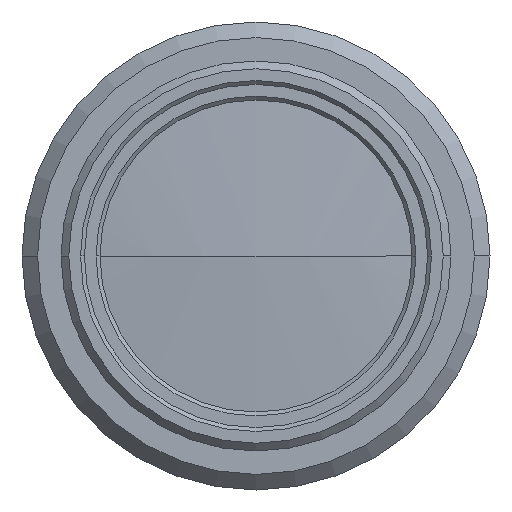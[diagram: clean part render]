
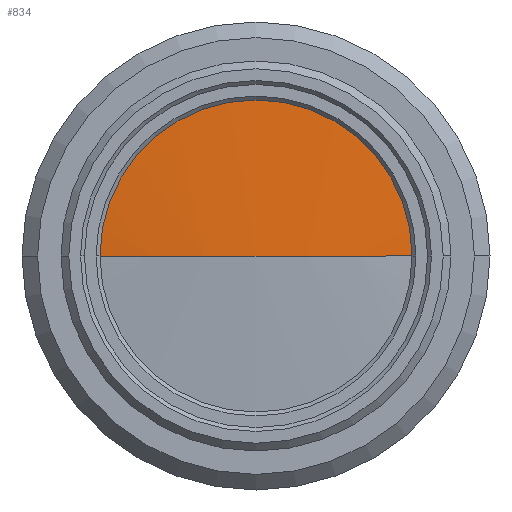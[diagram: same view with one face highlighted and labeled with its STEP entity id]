
A CAD part, left-side view. The second image highlights one B-rep face of the part: STEP entity #834.
In plain terms, the highlighted spherical face has radius 96 mm.
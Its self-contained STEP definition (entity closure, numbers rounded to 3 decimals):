
#38 = VERTEX_POINT ( 'NONE', #501 ) ;
#70 = CIRCLE ( 'NONE', #1562, 96. ) ;
#173 = DIRECTION ( 'NONE',  ( 0., 1., 0. ) ) ;
#334 = EDGE_LOOP ( 'NONE', ( #1780, #1061, #1565 ) ) ;
#353 = CIRCLE ( 'NONE', #649, 96. ) ;
#368 = AXIS2_PLACEMENT_3D ( 'NONE', #496, #1495, #173 ) ;
#377 = CIRCLE ( 'NONE', #737, 10. ) ;
#496 = CARTESIAN_POINT ( 'NONE',  ( -34.33, 0., 0. ) ) ;
#501 = CARTESIAN_POINT ( 'NONE',  ( -129.808, -10., 0. ) ) ;
#592 = DIRECTION ( 'NONE',  ( -1., 0., 0. ) ) ;
#649 = AXIS2_PLACEMENT_3D ( 'NONE', #1860, #1681, #1506 ) ;
#737 = AXIS2_PLACEMENT_3D ( 'NONE', #2187, #1147, #1833 ) ;
#834 = ADVANCED_FACE ( 'NONE', ( #1778 ), #1340, .T. ) ;
#835 = CARTESIAN_POINT ( 'NONE',  ( -129.808, 10., 0. ) ) ;
#870 = EDGE_CURVE ( 'NONE', #2042, #38, #377, .T. ) ;
#940 = CARTESIAN_POINT ( 'NONE',  ( -130.33, 0., 0. ) ) ;
#1061 = ORIENTED_EDGE ( 'NONE', *, *, #1532, .T. ) ;
#1147 = DIRECTION ( 'NONE',  ( 1., 0., 0. ) ) ;
#1323 = EDGE_CURVE ( 'NONE', #1387, #2042, #70, .T. ) ;
#1340 = SPHERICAL_SURFACE ( 'NONE', #368, 96. ) ;
#1387 = VERTEX_POINT ( 'NONE', #940 ) ;
#1432 = DIRECTION ( 'NONE',  ( 0., 0., -1. ) ) ;
#1495 = DIRECTION ( 'NONE',  ( 0., 0., 1. ) ) ;
#1506 = DIRECTION ( 'NONE',  ( 0., -1., 0. ) ) ;
#1532 = EDGE_CURVE ( 'NONE', #1387, #38, #353, .T. ) ;
#1562 = AXIS2_PLACEMENT_3D ( 'NONE', #2124, #1432, #592 ) ;
#1565 = ORIENTED_EDGE ( 'NONE', *, *, #870, .F. ) ;
#1681 = DIRECTION ( 'NONE',  ( 0., 0., 1. ) ) ;
#1778 = FACE_OUTER_BOUND ( 'NONE', #334, .T. ) ;
#1780 = ORIENTED_EDGE ( 'NONE', *, *, #1323, .F. ) ;
#1833 = DIRECTION ( 'NONE',  ( 0., 1., 0. ) ) ;
#1860 = CARTESIAN_POINT ( 'NONE',  ( -34.33, 0., 0. ) ) ;
#2042 = VERTEX_POINT ( 'NONE', #835 ) ;
#2124 = CARTESIAN_POINT ( 'NONE',  ( -34.33, 0., 0. ) ) ;
#2187 = CARTESIAN_POINT ( 'NONE',  ( -129.808, 0., 0. ) ) ;
